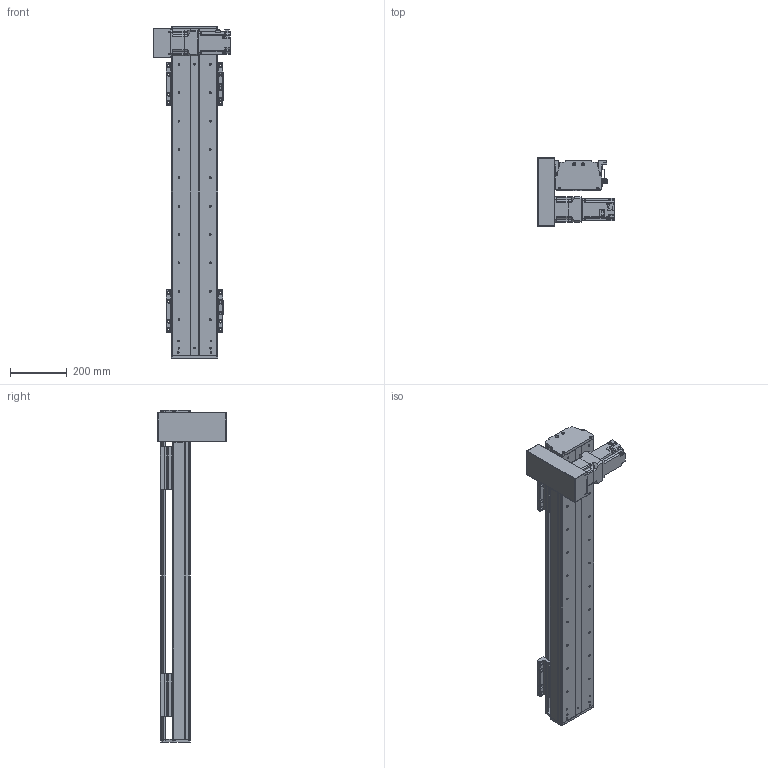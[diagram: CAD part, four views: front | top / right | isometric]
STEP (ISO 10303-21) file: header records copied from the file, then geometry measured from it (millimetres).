
FILE_DESCRIPTION(/* description */ (''),/* implementation_level */ '2;1');
FILE_NAME(/* name */ 'C:\Users\PC\Desktop\3D도면\STEP\DSB165-DL7G-W0800-R.stp',/* time_stamp */ '2018-06-25T15:35:43+09:00',/* author */ ('PC'),/* organization */ (''),/* preprocessor_version */ 'ST-DEVELOPER v16.5',/* originating_system */ 'Autodesk Inventor 2017',/* authorisation */ '');
FILE_SCHEMA (('AUTOMOTIVE_DESIGN { 1 0 10303 214 3 1 1 }'));
Length unit declared in the file: millimetre
Products named in the file (12): DSB165-L; DSR165-BASE_S; hg-kr73_; ab0901-p0401300102; 11-DBS165 BELT COVER; DBS165-COVER; DBS165-COVER_1; DBS165-UP COVER; DBS165-TABLE(MSA20S); DSR126-SENSOR DOG; SENSOR BRACKET(EE-SX674A); pm-y65_step
Assembly tree (16 placements, depth 2):
  DSB165-L
    DSR165-BASE_S
    hg-kr73_
    ab0901-p0401300102
    11-DBS165 BELT COVER
    DBS165-COVER
    DBS165-COVER_1
    DBS165-UP COVER
    DBS165-TABLE(MSA20S)  x2
    DSR126-SENSOR DOG
    pm-y65_step  x3
    SENSOR BRACKET(EE-SX674A)  x3
Bounding box: 270 x 242 x 1170 mm (x, y, z)
Volume: 7953912.3 mm3; surface area: 1837216.6 mm2
Topology: 17 solids, 22 shells, 1667 faces, 4475 edges, 2952 vertices
Faces by surface type: plane 926, cylinder 619, cone 110, sphere 8, torus 4
Full cylindrical faces by diameter (mm): 2.459 x20, 3.5 x6, 4.134 x42, 4.5 x18, 5 x27, 5.5 x36, 5.9 x4, 6 x8, 6.6 x14, 6.647 x38, 6.8 x1, 7 x4, 7.6 x4, 8 x1, 8.4 x1, 8.5 x24, 8.7 x1, 9.5 x32, 11 x6, 14 x16, 19 x1, 22 x1, 24 x1, 25 x1, 28 x1, 67 x1, 70 x2, 80 x1
Entity records: 35469 total; most frequent: DIRECTION 6268, CARTESIAN_POINT 6079, ORIENTED_EDGE 5534, EDGE_CURVE 2772, AXIS2_PLACEMENT_3D 2304, VERTEX_POINT 1977, EDGE_LOOP 1731, LINE 1660
